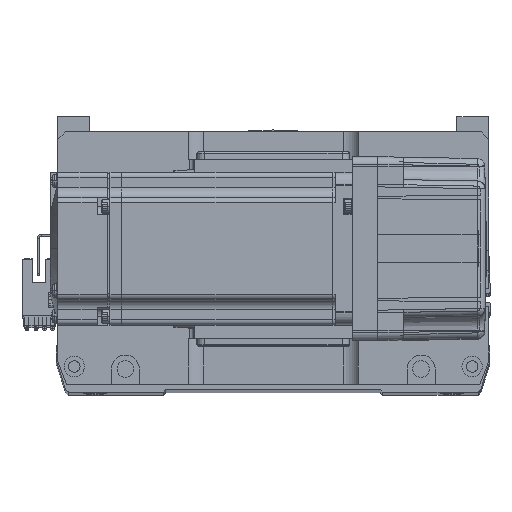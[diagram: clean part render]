
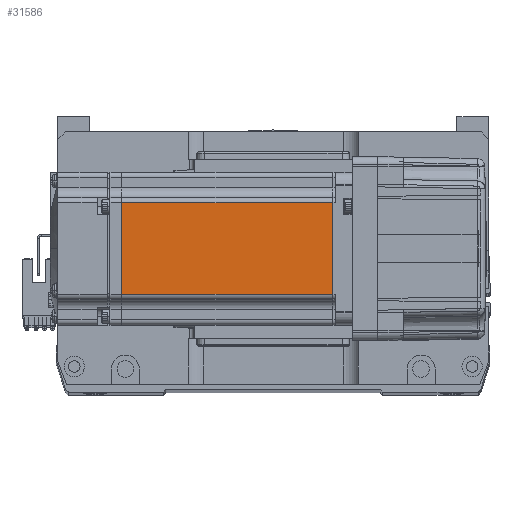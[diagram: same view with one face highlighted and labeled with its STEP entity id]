
A CAD part, top view. The second image highlights one B-rep face of the part: STEP entity #31586.
In plain terms, the highlighted planar face has unit normal (0, 0, 1).
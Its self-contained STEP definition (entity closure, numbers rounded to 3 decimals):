
#912 = EDGE_CURVE ( 'NONE', #53120, #10210, #13406, .T. ) ;
#4954 = DIRECTION ( 'NONE',  ( -1., 0., 0. ) ) ;
#5102 = DIRECTION ( 'NONE',  ( 0., 0., 1. ) ) ;
#5171 = DIRECTION ( 'NONE',  ( -1., 0., 0. ) ) ;
#5188 = EDGE_LOOP ( 'NONE', ( #7409, #27657, #36915, #16451 ) ) ;
#7409 = ORIENTED_EDGE ( 'NONE', *, *, #912, .F. ) ;
#8891 = VERTEX_POINT ( 'NONE', #9848 ) ;
#9848 = CARTESIAN_POINT ( 'NONE',  ( -90.45, 18., 30. ) ) ;
#9946 = DIRECTION ( 'NONE',  ( 1., 0., 0. ) ) ;
#10210 = VERTEX_POINT ( 'NONE', #54068 ) ;
#13226 = CARTESIAN_POINT ( 'NONE',  ( -90.45, -18., 30. ) ) ;
#13406 = LINE ( 'NONE', #15132, #24626 ) ;
#15132 = CARTESIAN_POINT ( 'NONE',  ( -7.75, 0., 30. ) ) ;
#15162 = CARTESIAN_POINT ( 'NONE',  ( -6.5, -25., 30. ) ) ;
#15686 = EDGE_CURVE ( 'NONE', #8891, #60663, #51139, .T. ) ;
#15950 = VECTOR ( 'NONE', #4954, 1000. ) ;
#16451 = ORIENTED_EDGE ( 'NONE', *, *, #36960, .F. ) ;
#19950 = DIRECTION ( 'NONE',  ( 0., -1., 0. ) ) ;
#24626 = VECTOR ( 'NONE', #19950, 1000. ) ;
#24705 = CARTESIAN_POINT ( 'NONE',  ( -7.75, 18., 30. ) ) ;
#25643 = AXIS2_PLACEMENT_3D ( 'NONE', #15162, #5102, #9946 ) ;
#27169 = LINE ( 'NONE', #33703, #15950 ) ;
#27657 = ORIENTED_EDGE ( 'NONE', *, *, #59828, .T. ) ;
#28912 = LINE ( 'NONE', #48769, #51411 ) ;
#31586 = ADVANCED_FACE ( 'NONE', ( #55686 ), #43870, .T. ) ;
#33703 = CARTESIAN_POINT ( 'NONE',  ( -6.5, -18., 30. ) ) ;
#36915 = ORIENTED_EDGE ( 'NONE', *, *, #15686, .T. ) ;
#36960 = EDGE_CURVE ( 'NONE', #10210, #60663, #27169, .T. ) ;
#43870 = PLANE ( 'NONE',  #25643 ) ;
#48769 = CARTESIAN_POINT ( 'NONE',  ( -6.5, 18., 30. ) ) ;
#50418 = VECTOR ( 'NONE', #56995, 1000. ) ;
#51139 = LINE ( 'NONE', #52163, #50418 ) ;
#51411 = VECTOR ( 'NONE', #5171, 1000. ) ;
#52163 = CARTESIAN_POINT ( 'NONE',  ( -90.45, 0., 30. ) ) ;
#53120 = VERTEX_POINT ( 'NONE', #24705 ) ;
#54068 = CARTESIAN_POINT ( 'NONE',  ( -7.75, -18., 30. ) ) ;
#55686 = FACE_OUTER_BOUND ( 'NONE', #5188, .T. ) ;
#56995 = DIRECTION ( 'NONE',  ( 0., -1., 0. ) ) ;
#59828 = EDGE_CURVE ( 'NONE', #53120, #8891, #28912, .T. ) ;
#60663 = VERTEX_POINT ( 'NONE', #13226 ) ;
